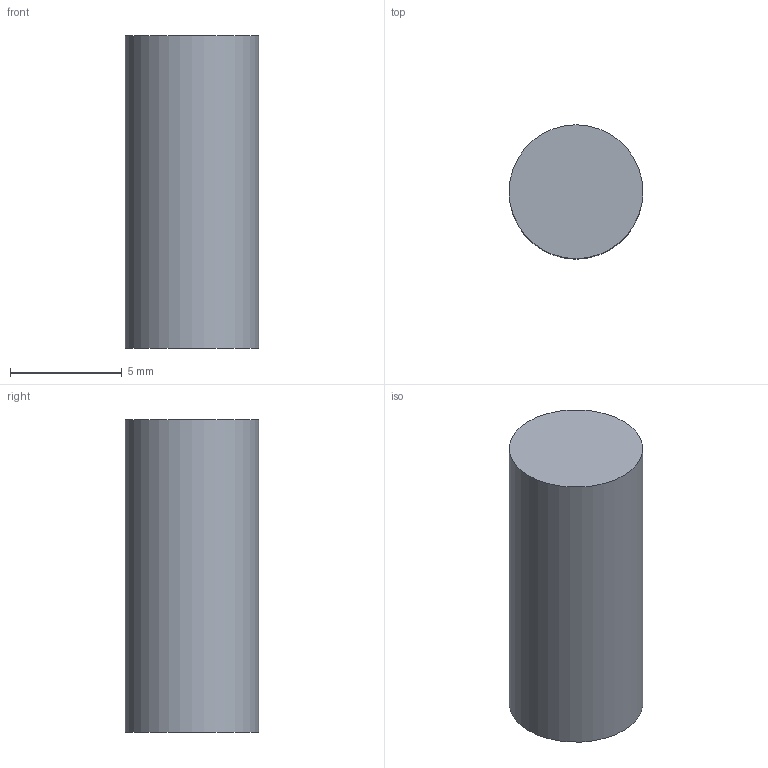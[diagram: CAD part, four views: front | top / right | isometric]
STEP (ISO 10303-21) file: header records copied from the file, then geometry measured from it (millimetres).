
FILE_DESCRIPTION(('Open CASCADE Model'),'2;1');
FILE_NAME('smoke','2000-01-01T00:00:00',('Author'),('Open CASCADE'),'Open CASCADE STEP processor 7.9','cadgen','Unknown');
FILE_SCHEMA(('AUTOMOTIVE_DESIGN { 1 0 10303 214 1 1 1 1 }'));
Length unit declared in the file: millimetre
Products named in the file (1): smoke
Bounding box: 6 x 6 x 14 mm (x, y, z)
Volume: 395.8 mm3; surface area: 320.4 mm2
Topology: 1 solids, 1 shells, 3 faces, 3 edges, 2 vertices
Faces by surface type: plane 2, cylinder 1
Full cylindrical faces by diameter (mm): 6 x1
Entity records: 107 total; most frequent: DIRECTION 19, CARTESIAN_POINT 15, AXIS2_PLACEMENT_3D 6, ORIENTED_EDGE 6, PCURVE 6, DEFINITIONAL_REPRESENTATION 6, LINE 5, VECTOR 5
